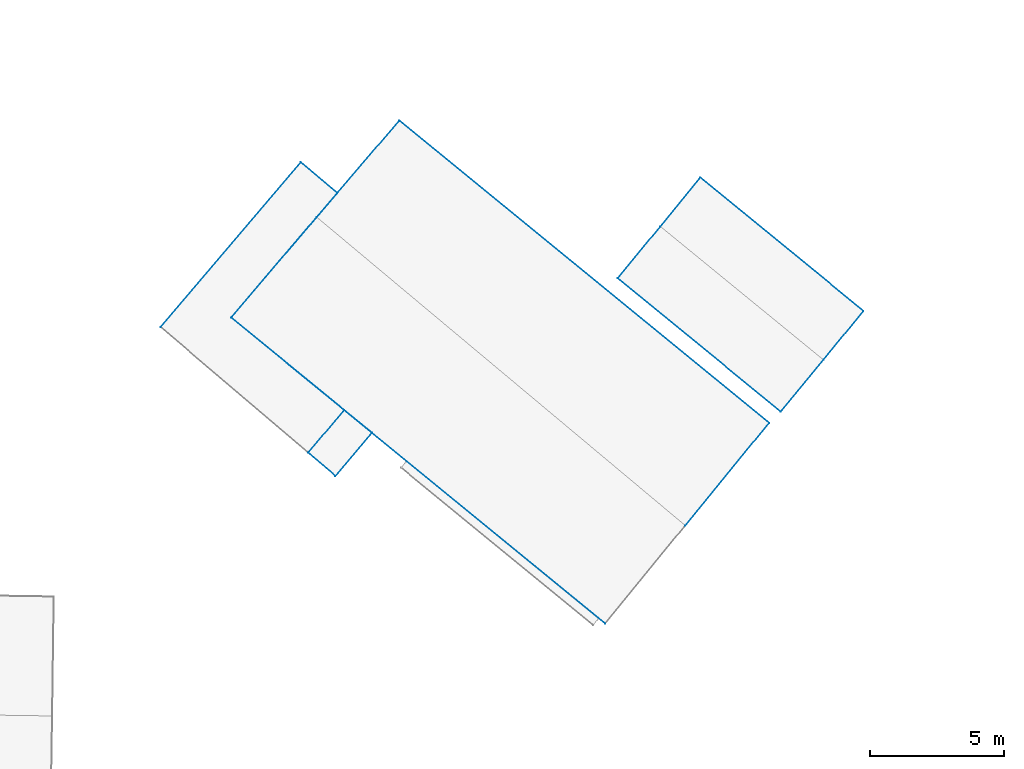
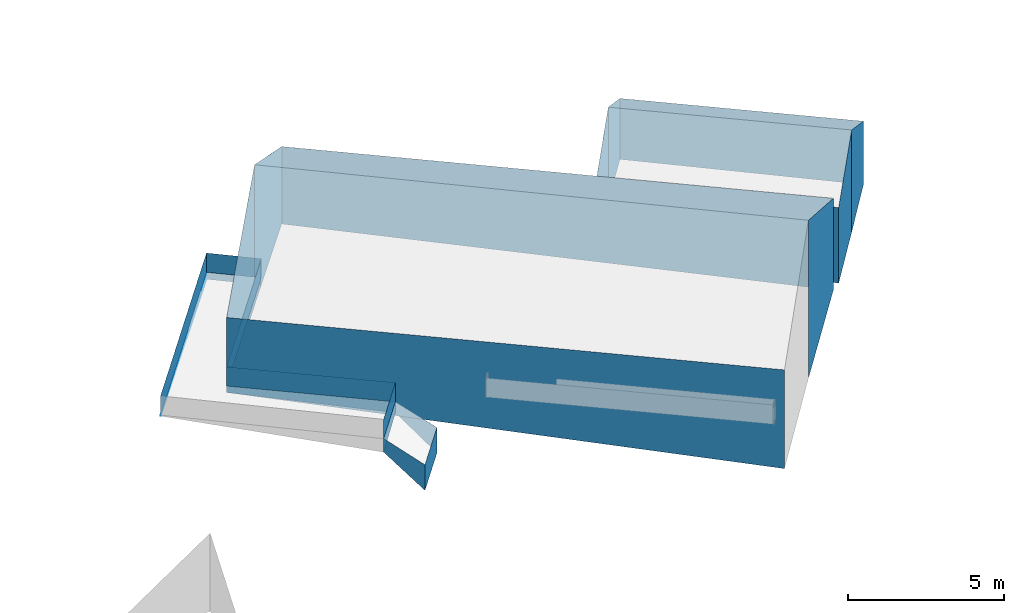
# Not in any storey, part 67 of 136: 30 walls.
"""IFC4 building model written with IfcOpenShell, lengths in metres."""

import ifcopenshell
import ifcopenshell.guid

model = None  # the IFC model being written
_history = None  # IfcOwnerHistory: only IFC2X3 demands one
_inside = {}  # id of a spatial element -> (the spatial element, [elements in it])
_under = {}  # id of a project, library or spatial element -> (it, [spatial elements below it])
_declared = {}  # id of a project -> (the project, [libraries it declares])
_typed = {}  # id of a type object -> (the type object, [elements of that type])
_made_of = {}  # id of a material, layer set ... -> (it, [elements and type objects made of it])


def new_model(schema):
    """Start an empty IFC model of exactly this schema.

    Asked for "IFC4X3", IfcOpenShell would pick the latest addendum, in which some entities
    have other attributes; the version numbers below select the first issue.
    IFC2X3 requires an IfcOwnerHistory on every rooted entity: one is made here for all.
    """
    global model, _history
    if schema == "IFC4X3":
        model = ifcopenshell.file(schema_version=(4, 3, 0, 0))
    else:
        model = ifcopenshell.file(schema=schema)
    _inside.clear()
    _under.clear()
    _declared.clear()
    _typed.clear()
    _made_of.clear()
    _history = None
    if model.schema == "IFC2X3":
        org = make("IfcOrganization", Name="unknown")
        user = make(
            "IfcPersonAndOrganization",
            ThePerson=make("IfcPerson", FamilyName="unknown"),
            TheOrganization=org,
        )
        app = make(
            "IfcApplication",
            ApplicationDeveloper=org,
            Version="unknown",
            ApplicationFullName="unknown",
            ApplicationIdentifier="unknown",
        )
        _history = make(
            "IfcOwnerHistory",
            OwningUser=user,
            OwningApplication=app,
            ChangeAction="ADDED",
            CreationDate=0,
        )
    return model


def make(cls, **values):
    """One entity of the class cls with the attributes given. An attribute that is None is left unset."""
    return model.create_entity(
        cls, **{name: value for name, value in values.items() if value is not None}
    )


def entity(cls, *values):
    """Any entity or typed value of the class cls, its attributes in the order of the schema. None: left unset."""
    e = model.create_entity(cls)
    for i, value in enumerate(values):
        if value is not None:
            e[i] = value
    return e


def rooted(cls, **values):
    """An entity with a GlobalId (a new one), such as an element, a storey or a relation."""
    return make(cls, GlobalId=ifcopenshell.guid.new(), OwnerHistory=_history, **values)


def si_unit(unit_type, name, prefix=None):
    """IfcSIUnit, for example si_unit("LENGTHUNIT", "METRE", prefix="MILLI")."""
    return make("IfcSIUnit", UnitType=unit_type, Prefix=prefix, Name=name)


def converted_unit(unit_type, name, factor, base, dimensions=None, offset=None):
    """IfcConversionBasedUnit, such as the inch: factor (a typed value) times the base unit."""
    return make(
        "IfcConversionBasedUnit"
        if offset is None
        else "IfcConversionBasedUnitWithOffset",
        ConversionOffset=offset,
        Dimensions=None
        if dimensions is None
        else entity("IfcDimensionalExponents", *dimensions),
        UnitType=unit_type,
        Name=name,
        ConversionFactor=make(
            "IfcMeasureWithUnit", ValueComponent=factor, UnitComponent=base
        ),
    )


def assignment(units):
    """IfcUnitAssignment: the units of a project."""
    return None if units is None else make("IfcUnitAssignment", Units=units)


def point(xyz):
    """IfcCartesianPoint."""
    return None if xyz is None else make("IfcCartesianPoint", Coordinates=xyz)


def direction(xyz):
    """IfcDirection."""
    return None if xyz is None else make("IfcDirection", DirectionRatios=xyz)


def frame(location, z_axis=None, x_axis=None):
    """IfcAxis2Placement3D, a coordinate frame: its origin and axes. An axis left out is left unset."""
    return make(
        "IfcAxis2Placement3D",
        Location=point(location),
        Axis=direction(z_axis),
        RefDirection=direction(x_axis),
    )


def origin():
    """The frame at (0, 0, 0) with its axes left unset."""
    return frame((0.0, 0.0, 0.0))


def place(relative_to, where):
    """IfcLocalPlacement: puts the frame where relative to a parent placement (None: the world)."""
    return make(
        "IfcLocalPlacement", PlacementRelTo=relative_to, RelativePlacement=where
    )


def context(
    kind, dimensions, precision=None, world=None, true_north=None, identifier=None
):
    """IfcGeometricRepresentationContext, for example the 3D "Model" context."""
    return make(
        "IfcGeometricRepresentationContext",
        ContextIdentifier=identifier,
        ContextType=kind,
        CoordinateSpaceDimension=dimensions,
        Precision=precision,
        WorldCoordinateSystem=world,
        TrueNorth=true_north,
    )


def subcontext(parent, identifier, kind, view, scale=None):
    """IfcGeometricRepresentationSubContext, for example "Body" below "Model"."""
    return make(
        "IfcGeometricRepresentationSubContext",
        ContextIdentifier=identifier,
        ContextType=kind,
        ParentContext=parent,
        TargetScale=scale,
        TargetView=view,
    )


def project(units=None, contexts=None):
    """IfcProject with its units and contexts."""
    return rooted(
        "IfcProject",
        Name="project",
        RepresentationContexts=contexts,
        UnitsInContext=assignment(units),
    )


def spatial(cls, under=None, at=None, **own):
    """A site, building, storey or space (cls), placed at a placement, below another one or the project."""
    s = rooted(cls, ObjectPlacement=at, **own)
    if under is not None:
        _under.setdefault(under.id(), (under, []))[1].append(s)
    return s


def faces_of(points, faces, orient=None, outer=None):
    """IfcFace entities. A face is a list of loops; a loop is a list of indices into points, from 0.

    orient and outer hold one flag for each loop. By default every Orientation is true, the
    first loop of a face is its IfcFaceOuterBound and the others are IfcFaceBound.
    """
    made = []
    for i, loops in enumerate(faces):
        bounds = []
        for j, loop in enumerate(loops):
            is_outer = j == 0 if outer is None else outer[i][j]
            bounds.append(
                make(
                    "IfcFaceOuterBound" if is_outer else "IfcFaceBound",
                    Bound=make("IfcPolyLoop", Polygon=[points[k] for k in loop]),
                    Orientation=True if orient is None else orient[i][j],
                )
            )
        made.append(make("IfcFace", Bounds=bounds))
    return made


def face_set(faces, orient=None, outer=None):
    """The faces of one IfcConnectedFaceSet. surface_model builds it on its shared points."""
    return ("IfcConnectedFaceSet", faces, orient, outer)


def surface_model(cls, points, shells):
    """IfcFaceBasedSurfaceModel or IfcShellBasedSurfaceModel (cls): surfaces that need not close."""
    shared = [point(p) for p in points]
    made = [make(c, CfsFaces=faces_of(shared, fs, o, b)) for c, fs, o, b in shells]
    if cls == "IfcFaceBasedSurfaceModel":
        return make(cls, FbsmFaces=made)
    return make(cls, SbsmBoundary=made)


def shape(context_of_items, identifier, shape_type, items):
    """IfcShapeRepresentation: the items that make up one representation, for example the "Body"."""
    return make(
        "IfcShapeRepresentation",
        ContextOfItems=context_of_items,
        RepresentationIdentifier=identifier,
        RepresentationType=shape_type,
        Items=items,
    )


def made_of(thing, what):
    """Note that an element or type object is made of a material, layer set ...; save() writes the relation."""
    if what is not None:
        _made_of.setdefault(what.id(), (what, []))[1].append(thing)
    return thing


def element(
    cls,
    number,
    at=None,
    inside=None,
    cuts=None,
    type_object=None,
    material=None,
    context=None,
    identifier="Body",
    shape_type=None,
    held_by="IfcProductDefinitionShape",
    body=None,
    shapes=None,
    **own,
):
    """One element of the class cls, such as IfcWall. Its Tag is "e" and its number.

    at: its placement. inside: the storey or other place that contains it. cuts: it is an
    opening in that element (IfcRelVoidsElement). A single representation is given by context,
    identifier, shape_type and body (its items); several are given by shapes. held_by: the class
    of the entity that holds the representations. save() writes the other relations.
    """
    e = rooted(cls, Tag="e%d" % number, ObjectPlacement=at, **own)
    if body is not None:
        shapes = [shape(context, identifier, shape_type, body)]
    if shapes is not None:
        e.Representation = make(held_by, Representations=shapes)
    if inside is not None:
        _inside.setdefault(inside.id(), (inside, []))[1].append(e)
    if cuts is not None:
        rooted(
            "IfcRelVoidsElement", RelatingBuildingElement=cuts, RelatedOpeningElement=e
        )
    if type_object is not None:
        _typed.setdefault(type_object.id(), (type_object, []))[1].append(e)
    return made_of(e, material)


def aggregate(whole, parts):
    """IfcRelAggregates: a whole, such as a stair, and the parts it consists of."""
    return rooted("IfcRelAggregates", RelatingObject=whole, RelatedObjects=parts)


def save(model, path):
    """Write the relations noted so far, then the file.

    IfcRelAggregates (storeys below a building ...), IfcRelContainedInSpatialStructure (elements
    in a storey), IfcRelDefinesByType, IfcRelAssociatesMaterial and IfcRelDeclares: one each for
    every whole, place, type object, material and project.
    """
    for whole, parts in _under.values():
        aggregate(whole, parts)
    for where, things in _inside.values():
        rooted(
            "IfcRelContainedInSpatialStructure",
            RelatedElements=things,
            RelatingStructure=where,
        )
    for kind, things in _typed.values():
        rooted("IfcRelDefinesByType", RelatedObjects=things, RelatingType=kind)
    for what, things in _made_of.values():
        rooted("IfcRelAssociatesMaterial", RelatedObjects=things, RelatingMaterial=what)
    for by, libraries in _declared.values():
        rooted("IfcRelDeclares", RelatingContext=by, RelatedDefinitions=libraries)
    model.write(path)


model = new_model("IFC4")

# Units and contexts
model_context = context("Model", 3, precision=1e-05, world=origin())
body_context = subcontext(model_context, "Body", "Model", "MODEL_VIEW")
ifc_project = project(units=[converted_unit("PLANEANGLEUNIT", "DEGREE", entity("IfcRatioMeasure", 0.0174532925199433), si_unit("PLANEANGLEUNIT", "RADIAN"), dimensions=[0, 0, 0, 0, 0, 0, 0]), si_unit("AREAUNIT", "SQUARE_METRE"), si_unit("LENGTHUNIT", "METRE")], contexts=[model_context])

# Site, building
site_placement = place(None, origin())
site = spatial("IfcSite", under=ifc_project, at=site_placement, Name="_site")
building_1_placement = place(site_placement, origin())
building_1 = spatial("IfcBuilding", under=site, at=building_1_placement, Name="_building")

# Walls
wall_1_placement = place(building_1_placement, origin())
element("IfcWall", 1, at=wall_1_placement, inside=building_1, Name="Wall", PredefinedType="NOTDEFINED", context=body_context, shape_type="SurfaceModel", body=[
    surface_model("IfcFaceBasedSurfaceModel", [(160.92, 133.55, 41.48), (156.95, 128.89, 41.48), (156.95, 128.89, 42.23), (160.92, 133.55, 42.23)], [face_set([[[0, 1, 2, 3]]])]),
])
wall_2_placement = place(building_1_placement, origin())
element("IfcWall", 2, at=wall_2_placement, inside=building_1, Name="Wall", PredefinedType="NOTDEFINED", context=body_context, shape_type="SurfaceModel", body=[
    surface_model("IfcFaceBasedSurfaceModel", [(156.95, 128.89, 44.15), (160.15, 132.65, 46.71), (160.15, 132.65, 41.212), (156.95, 128.89, 41.224)], [face_set([[[0, 1, 2, 3]]])]),
])
wall_3_placement = place(building_1_placement, origin())
element("IfcWall", 3, at=wall_3_placement, inside=building_1, Name="Wall", PredefinedType="NOTDEFINED", context=body_context, shape_type="SurfaceModel", body=[
    surface_model("IfcFaceBasedSurfaceModel", [(156.95, 128.89, 41.48), (161.18, 125.43, 41.48), (161.18, 125.43, 41.046), (156.95, 128.89, 41.224)], [face_set([[[0, 1, 2, 3]]])]),
])
wall_4_placement = place(building_1_placement, origin())
element("IfcWall", 4, at=wall_4_placement, inside=building_1, Name="Wall", PredefinedType="NOTDEFINED", context=body_context, shape_type="SurfaceModel", body=[
    surface_model("IfcFaceBasedSurfaceModel", [(154.31, 128.54, 41.48), (159.56, 134.7, 41.48), (159.56, 134.7, 42.23), (154.31, 128.54, 42.23)], [face_set([[[0, 1, 2, 3]]])]),
])
wall_5_placement = place(building_1_placement, origin())
element("IfcWall", 5, at=wall_5_placement, inside=building_1, Name="Wall", PredefinedType="NOTDEFINED", context=body_context, shape_type="SurfaceModel", body=[
    surface_model("IfcFaceBasedSurfaceModel", [(177.06, 124.95, 44.15), (173.93, 121.12, 46.71), (173.93, 121.12, 40.543), (177.06, 124.95, 40.566)], [face_set([[[0, 1, 2, 3]]])]),
])
wall_6_placement = place(building_1_placement, origin())
element("IfcWall", 6, at=wall_6_placement, inside=building_1, Name="Wall", PredefinedType="NOTDEFINED", context=body_context, shape_type="SurfaceModel", body=[
    surface_model("IfcFaceBasedSurfaceModel", [(163.24, 136.26, 44.15), (177.06, 124.95, 44.15), (177.06, 124.95, 40.566), (163.24, 136.26, 41.127)], [face_set([[[0, 1, 2, 3]]])]),
])
wall_7_placement = place(building_1_placement, origin())
element("IfcWall", 7, at=wall_7_placement, inside=building_1, Name="Wall", PredefinedType="NOTDEFINED", context=body_context, shape_type="SurfaceModel", body=[
    surface_model("IfcFaceBasedSurfaceModel", [(156.95, 128.89, 41.48), (161.18, 125.43, 41.48), (161.18, 125.43, 42.23), (156.95, 128.89, 42.23)], [face_set([[[0, 1, 2, 3]]])]),
])
wall_8_placement = place(building_1_placement, origin())
element("IfcWall", 8, at=wall_8_placement, inside=building_1, Name="Wall", PredefinedType="NOTDEFINED", context=body_context, shape_type="SurfaceModel", body=[
    surface_model("IfcFaceBasedSurfaceModel", [(161.18, 125.43, 41.48), (159.83, 123.84, 41.48), (159.83, 123.84, 42.23), (161.18, 125.43, 42.23)], [face_set([[[0, 1, 2, 3]]])]),
])
wall_9_placement = place(building_1_placement, origin())
element("IfcWall", 9, at=wall_9_placement, inside=building_1, Name="Wall", PredefinedType="NOTDEFINED", context=body_context, shape_type="SurfaceModel", body=[
    surface_model("IfcFaceBasedSurfaceModel", [(159.56, 134.7, 41.48), (160.92, 133.55, 41.48), (160.92, 133.55, 42.23), (159.56, 134.7, 42.23)], [face_set([[[0, 1, 2, 3]]])]),
])
wall_10_placement = place(building_1_placement, origin())
element("IfcWall", 10, at=wall_10_placement, inside=building_1, Name="Wall", PredefinedType="NOTDEFINED", context=body_context, shape_type="SurfaceModel", body=[
    surface_model("IfcFaceBasedSurfaceModel", [(156.95, 128.89, 41.48), (161.18, 125.43, 41.48), (161.18, 125.43, 42.23), (156.95, 128.89, 42.23)], [face_set([[[0, 1, 2, 3]]])]),
])
wall_11_placement = place(building_1_placement, origin())
element("IfcWall", 11, at=wall_11_placement, inside=building_1, Name="Wall", PredefinedType="NOTDEFINED", context=body_context, shape_type="SurfaceModel", body=[
    surface_model("IfcFaceBasedSurfaceModel", [(159.83, 123.84, 41.48), (161.18, 125.43, 41.48), (161.18, 125.43, 41.046), (159.83, 123.84, 40.95)], [face_set([[[0, 1, 2, 3]]])]),
])
wall_12_placement = place(building_1_placement, origin())
element("IfcWall", 12, at=wall_12_placement, inside=building_1, Name="Wall", PredefinedType="NOTDEFINED", context=body_context, shape_type="SurfaceModel", body=[
    surface_model("IfcFaceBasedSurfaceModel", [(160.92, 133.55, 41.48), (156.95, 128.89, 41.48), (156.95, 128.89, 42.23), (160.92, 133.55, 42.23)], [face_set([[[0, 1, 2, 3]]])]),
])
wall_13_placement = place(building_1_placement, origin())
element("IfcWall", 13, at=wall_13_placement, inside=building_1, Name="Wall", PredefinedType="NOTDEFINED", context=body_context, shape_type="SurfaceModel", body=[
    surface_model("IfcFaceBasedSurfaceModel", [(170.93, 117.45, 44.15), (156.95, 128.89, 44.15), (156.95, 128.89, 41.224), (170.93, 117.45, 40.299)], [face_set([[[0, 1, 2, 3]]])]),
])
wall_14_placement = place(building_1_placement, origin())
element("IfcWall", 14, at=wall_14_placement, inside=building_1, Name="Wall", PredefinedType="NOTDEFINED", context=body_context, shape_type="SurfaceModel", body=[
    surface_model("IfcFaceBasedSurfaceModel", [(159.56, 134.7, 41.48), (160.92, 133.55, 41.48), (160.92, 133.55, 42.23), (159.56, 134.7, 42.23)], [face_set([[[0, 1, 2, 3]]])]),
])
wall_15_placement = place(building_1_placement, origin())
element("IfcWall", 15, at=wall_15_placement, inside=building_1, Name="Wall", PredefinedType="NOTDEFINED", context=body_context, shape_type="SurfaceModel", body=[
    surface_model("IfcFaceBasedSurfaceModel", [(154.31, 128.54, 41.48), (159.56, 134.7, 41.48), (159.56, 134.7, 42.23), (154.31, 128.54, 42.23)], [face_set([[[0, 1, 2, 3]]])]),
])
wall_16_placement = place(building_1_placement, origin())
element("IfcWall", 16, at=wall_16_placement, inside=building_1, Name="Wall", PredefinedType="NOTDEFINED", context=body_context, shape_type="SurfaceModel", body=[
    surface_model("IfcFaceBasedSurfaceModel", [(161.18, 125.43, 41.48), (159.83, 123.84, 41.48), (159.83, 123.84, 40.95), (161.18, 125.43, 41.046)], [face_set([[[0, 1, 2, 3]]])]),
])
wall_17_placement = place(building_1_placement, origin())
element("IfcWall", 17, at=wall_17_placement, inside=building_1, Name="Wall", PredefinedType="NOTDEFINED", context=body_context, shape_type="SurfaceModel", body=[
    surface_model("IfcFaceBasedSurfaceModel", [(161.18, 125.43, 41.48), (162.22, 124.58, 40.63), (162.22, 124.58, 39.63), (161.18, 125.43, 41.046)], [face_set([[[0, 1, 2, 3]]])]),
])
wall_18_placement = place(building_1_placement, origin())
element("IfcWall", 18, at=wall_18_placement, inside=building_1, Name="Wall", PredefinedType="NOTDEFINED", context=body_context, shape_type="SurfaceModel", body=[
    surface_model("IfcFaceBasedSurfaceModel", [(160.92, 133.55, 41.48), (156.95, 128.89, 41.48), (156.95, 128.89, 41.224), (160.92, 133.55, 41.206)], [face_set([[[0, 1, 2, 3]]])]),
])
wall_19_placement = place(building_1_placement, origin())
element("IfcWall", 19, at=wall_19_placement, inside=building_1, Name="Wall", PredefinedType="NOTDEFINED", context=body_context, shape_type="SurfaceModel", body=[
    surface_model("IfcFaceBasedSurfaceModel", [(161.18, 125.43, 41.48), (159.83, 123.84, 41.48), (159.83, 123.84, 42.23), (161.18, 125.43, 42.23)], [face_set([[[0, 1, 2, 3]]])]),
])
wall_20_placement = place(building_1_placement, origin())
element("IfcWall", 20, at=wall_20_placement, inside=building_1, Name="Wall", PredefinedType="NOTDEFINED", context=body_context, shape_type="SurfaceModel", body=[
    surface_model("IfcFaceBasedSurfaceModel", [(159.56, 134.7, 41.48), (160.92, 133.55, 41.48), (160.92, 133.55, 41.206), (159.56, 134.7, 41.206)], [face_set([[[0, 1, 2, 3]]])]),
])
wall_21_placement = place(building_1_placement, origin())
element("IfcWall", 21, at=wall_21_placement, inside=building_1, Name="Wall", PredefinedType="NOTDEFINED", context=body_context, shape_type="SurfaceModel", body=[
    surface_model("IfcFaceBasedSurfaceModel", [(160.85, 122.97, 40.63), (159.83, 123.84, 41.48), (159.83, 123.84, 40.95), (160.85, 122.97, 39.63)], [face_set([[[0, 1, 2, 3]]])]),
])
wall_22_placement = place(building_1_placement, origin())
element("IfcWall", 22, at=wall_22_placement, inside=building_1, Name="Wall", PredefinedType="NOTDEFINED", context=body_context, shape_type="SurfaceModel", body=[
    surface_model("IfcFaceBasedSurfaceModel", [(160.15, 132.65, 46.71), (163.24, 136.26, 44.15), (163.24, 136.26, 41.127), (160.15, 132.65, 41.212)], [face_set([[[0, 1, 2, 3]]])]),
])
wall_23_placement = place(building_1_placement, origin())
element("IfcWall", 23, at=wall_23_placement, inside=building_1, Name="Wall", PredefinedType="NOTDEFINED", context=body_context, shape_type="SurfaceModel", body=[
    surface_model("IfcFaceBasedSurfaceModel", [(162.22, 124.58, 40.63), (160.85, 122.97, 40.63), (160.85, 122.97, 39.63), (162.22, 124.58, 39.63)], [face_set([[[0, 1, 2, 3]]])]),
])
wall_24_placement = place(building_1_placement, origin())
element("IfcWall", 24, at=wall_24_placement, inside=building_1, Name="Wall", PredefinedType="NOTDEFINED", context=body_context, shape_type="SurfaceModel", body=[
    surface_model("IfcFaceBasedSurfaceModel", [(154.31, 128.54, 41.48), (159.56, 134.7, 41.48), (159.56, 134.7, 41.206), (154.31, 128.54, 41.44)], [face_set([[[0, 1, 2, 3]]])]),
])

# Building
building_2_placement = place(site_placement, origin())
building_2 = spatial("IfcBuilding", under=site, at=building_2_placement, Name="_building")

# Walls
wall_25_placement = place(building_2_placement, origin())
element("IfcWall", 25, at=wall_25_placement, inside=building_2, Name="Wall", PredefinedType="NOTDEFINED", context=body_context, shape_type="SurfaceModel", body=[
    surface_model("IfcFaceBasedSurfaceModel", [(179.1, 127.311, 44.67), (177.5, 125.37, 43.38), (177.5, 125.37, 40.429), (179.1, 127.311, 40.68)], [face_set([[[0, 1, 2, 3]]])]),
])
wall_26_placement = place(building_2_placement, origin())
element("IfcWall", 26, at=wall_26_placement, inside=building_2, Name="Wall", PredefinedType="NOTDEFINED", context=body_context, shape_type="SurfaceModel", body=[
    surface_model("IfcFaceBasedSurfaceModel", [(174.49, 134.13, 43.38), (180.59, 129.14, 43.38), (180.59, 129.14, 40.909), (174.49, 134.13, 41.0)], [face_set([[[0, 1, 2, 3]]])]),
])
wall_27_placement = place(building_2_placement, origin())
element("IfcWall", 27, at=wall_27_placement, inside=building_2, Name="Wall", PredefinedType="NOTDEFINED", context=body_context, shape_type="SurfaceModel", body=[
    surface_model("IfcFaceBasedSurfaceModel", [(177.5, 125.37, 43.38), (171.41, 130.36, 43.38), (171.41, 130.36, 41.0), (177.5, 125.37, 40.429)], [face_set([[[0, 1, 2, 3]]])]),
])
wall_28_placement = place(building_2_placement, origin())
element("IfcWall", 28, at=wall_28_placement, inside=building_2, Name="Wall", PredefinedType="NOTDEFINED", context=body_context, shape_type="SurfaceModel", body=[
    surface_model("IfcFaceBasedSurfaceModel", [(173.0, 132.3, 44.67), (174.49, 134.13, 43.38), (174.49, 134.13, 41.0), (173.0, 132.3, 41.0)], [face_set([[[0, 1, 2, 3]]])]),
])
wall_29_placement = place(building_2_placement, origin())
element("IfcWall", 29, at=wall_29_placement, inside=building_2, Name="Wall", PredefinedType="NOTDEFINED", context=body_context, shape_type="SurfaceModel", body=[
    surface_model("IfcFaceBasedSurfaceModel", [(171.41, 130.36, 43.38), (173.0, 132.3, 44.67), (173.0, 132.3, 41.0), (171.41, 130.36, 41.0)], [face_set([[[0, 1, 2, 3]]])]),
])
wall_30_placement = place(building_2_placement, origin())
element("IfcWall", 30, at=wall_30_placement, inside=building_2, Name="Wall", PredefinedType="NOTDEFINED", context=body_context, shape_type="SurfaceModel", body=[
    surface_model("IfcFaceBasedSurfaceModel", [(180.59, 129.14, 43.38), (179.1, 127.311, 44.67), (179.1, 127.311, 40.68), (180.59, 129.14, 40.909)], [face_set([[[0, 1, 2, 3]]])]),
])

save(model, "model.ifc")
